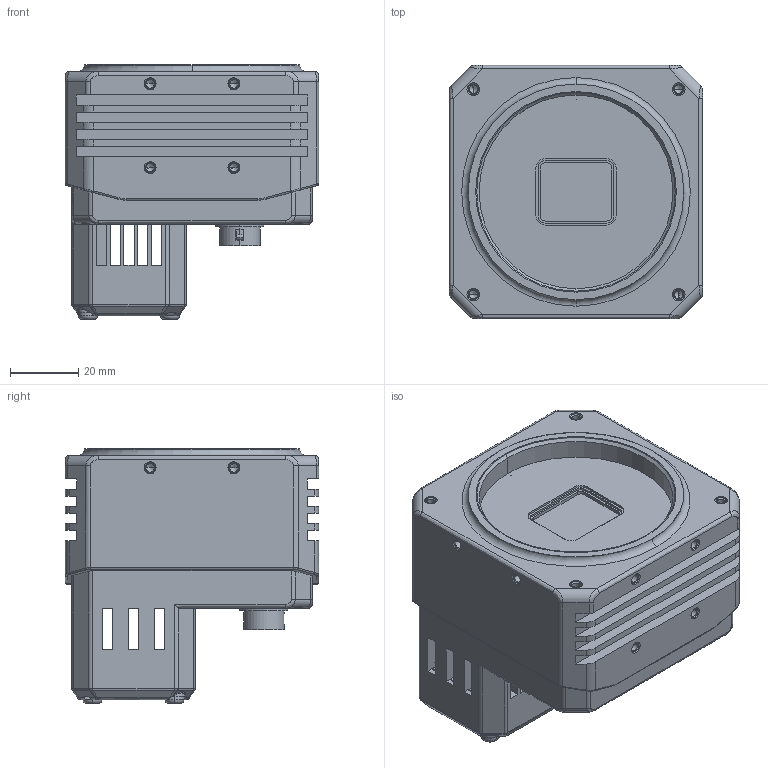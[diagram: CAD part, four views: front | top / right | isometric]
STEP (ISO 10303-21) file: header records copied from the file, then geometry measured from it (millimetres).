
FILE_DESCRIPTION((''),'2;1');
FILE_NAME('MV-CH120-M58-NF_ASM','2019-04-22T18:05:06',('wangyijun6'),(''),'CREO PARAMETRIC BY PTC INC, 2017260','CREO PARAMETRIC BY PTC INC, 2017260','');
FILE_SCHEMA(('CONFIG_CONTROL_DESIGN'));
Products named in the file (1): MV-CH120-M58-NF_ASM
Bounding box: 74 x 74 x 74.4 mm (x, y, z)
Volume: 224844.8 mm3; surface area: 61144 mm2
Topology: 2 solids, 56 shells, 2584 faces, 7014 edges, 4490 vertices
Faces by surface type: plane 1302, cylinder 798, bspline 162, cone 154, extrusion 104, torus 56, revolution 4, sphere 4
Entity records: 95975 total; most frequent: CARTESIAN_POINT 31752, ORIENTED_EDGE 13744, DIRECTION 12698, EDGE_CURVE 6956, VERTEX_POINT 4490, VECTOR 4282, AXIS2_PLACEMENT_3D 4206, LINE 4178
